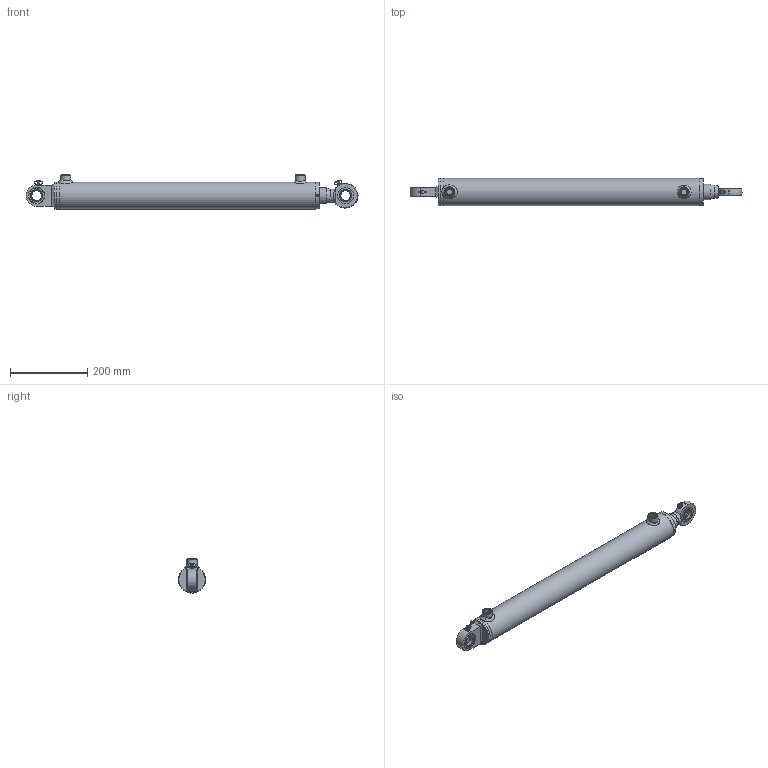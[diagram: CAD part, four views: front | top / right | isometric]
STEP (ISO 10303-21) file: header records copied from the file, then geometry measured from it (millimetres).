
FILE_DESCRIPTION( ( 'Unknown' ), '1' );
FILE_NAME( 'E:/LIBRERIA_3d/CILINDRI/HMB/HMB3400550.stp', 'Unknown', ( 'Unknown' ), ( 'Unknown' ), 'PSStep 17.0.49', 'Unknown', ' ' );
FILE_SCHEMA( ( 'AUTOMOTIVE_DESIGN { 1 0 10303 214 1 1 1 1 }' ) );
Length unit declared in the file: millimetre
Products named in the file (37): CSTSF025C0; tsc25c_CORPO; AN00006001; STL3500550-oa7; Saldatura d'angolo 1-oa5; FTM3500550-oa6; CBSC220600; CG07006040; CT00060027; CSTSF025N0; An00006001; CSTS025N_CORPO; CSAI002042; CSAI002042-oa0; CSTS025C00; cge0250000; APGR013000; CSTS025N00; CGE0250000; HM03400550; Saldatura con preparazione 1-oa3; Saldatura d'angolo 1-oa4; CF00060070; CBS0600000; APG0600000; CDB0002720; SBL4040550; Assem1; Saldatura d'angolo 1-oa1; Saldatura d'angolo 2-oa2
Assembly tree (32 placements, depth 4):
  Saldatura d'angolo 1-oa5
  Saldatura d'angolo 1-oa5
  Saldatura d'angolo 1-oa4
  Saldatura d'angolo 1-oa4
  Assem1
    APGR013000  x2
    CSTS025N00
      CGE0250000
      APGR013000
      CSTSF025N0
        An00006001
        CSTS025N_CORPO
        CSAI002042
        CSAI002042-oa0
    CSTS025C00
      cge0250000
      APGR013000
      CSTSF025C0
        tsc25c_CORPO
        AN00006001
    HM03400550
      Saldatura con preparazione 1-oa3
      Saldatura con preparazione 1-oa3
      CF00060070
      CBS0600000
      APG0600000  x2
      CDB0002720
      SBL4040550
      CG07006040
        CG07006040
      CT00060027
        CT00060027
      STL3500550-oa7
        FTM3500550-oa6
        CBSC220600
Bounding box: 859.5 x 70 x 89 mm (x, y, z)
Volume: 1877718.2 mm3; surface area: 495297 mm2
Topology: 32 solids, 32 shells, 390 faces, 803 edges, 508 vertices
Faces by surface type: plane 156, cylinder 101, torus 46, cone 44, bspline 36, sphere 7
Full cylindrical faces by diameter (mm): 2 x4, 4 x1, 4.25 x1, 5 x12, 6 x4, 7 x2, 8 x4, 9 x4, 14.95 x2, 16 x2, 16.6 x2, 22 x2, 25 x4, 26 x2, 26.4 x1, 27 x5, 33.2 x1, 33.5 x3, 40 x6, 41 x1, 42 x9, 43 x1, 44 x1, 48 x1, 48.6 x1, 55 x1, 55.39 x2, 58.65 x2, 59.9 x1, 60 x1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
Entity records: 14638 total; most frequent: CARTESIAN_POINT 5678, DIRECTION 1360, ORIENTED_EDGE 882, AXIS2_PLACEMENT_3D 617, EDGE_LOOP 592, FACE_OUTER_BOUND 468, EDGE_CURVE 441, VERTEX_POINT 377
